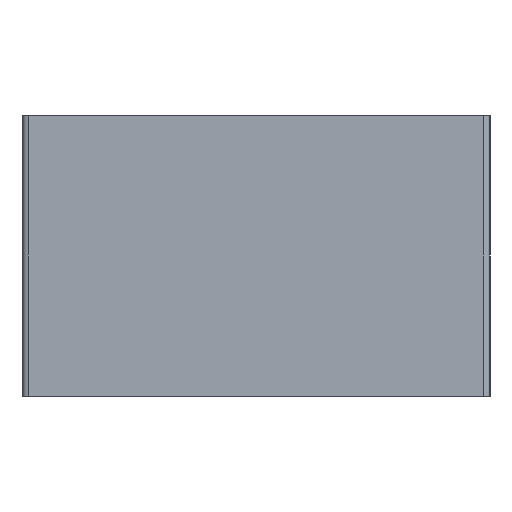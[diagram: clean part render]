
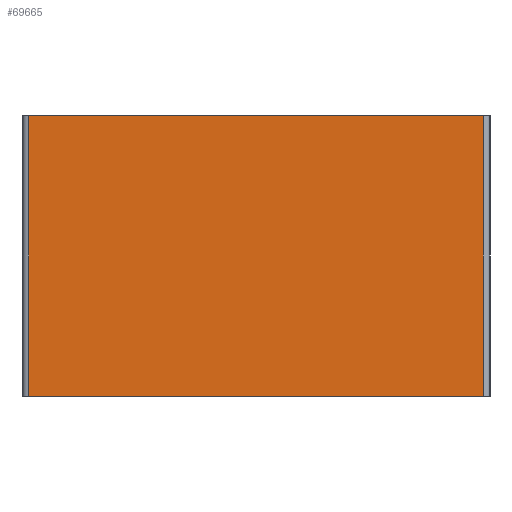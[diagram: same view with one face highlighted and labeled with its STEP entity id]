
A CAD part, left-side view. The second image highlights one B-rep face of the part: STEP entity #69665.
In plain terms, the highlighted planar face has unit normal (-1, 0, 0).
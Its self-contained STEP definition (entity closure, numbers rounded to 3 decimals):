
#1453 = EDGE_CURVE ( 'NONE', #40496, #74767, #7513, .T. ) ;
#1509 = CARTESIAN_POINT ( 'NONE',  ( -95.25, -51., -31.5 ) ) ;
#2593 = VECTOR ( 'NONE', #43764, 1000. ) ;
#7513 = LINE ( 'NONE', #1509, #75387 ) ;
#7665 = VECTOR ( 'NONE', #76607, 1000. ) ;
#8448 = CARTESIAN_POINT ( 'NONE',  ( -95.25, 51., 31.5 ) ) ;
#9707 = CARTESIAN_POINT ( 'NONE',  ( -95.25, -51., 31.5 ) ) ;
#11184 = ORIENTED_EDGE ( 'NONE', *, *, #1453, .F. ) ;
#12238 = VERTEX_POINT ( 'NONE', #15728 ) ;
#13117 = ORIENTED_EDGE ( 'NONE', *, *, #24827, .F. ) ;
#15728 = CARTESIAN_POINT ( 'NONE',  ( -95.25, 51., -31.5 ) ) ;
#20830 = ORIENTED_EDGE ( 'NONE', *, *, #70370, .T. ) ;
#21353 = DIRECTION ( 'NONE',  ( 0., 0., -1. ) ) ;
#21615 = ORIENTED_EDGE ( 'NONE', *, *, #37674, .F. ) ;
#23302 = DIRECTION ( 'NONE',  ( -1., 0., 0. ) ) ;
#24827 = EDGE_CURVE ( 'NONE', #71964, #40496, #40175, .T. ) ;
#25080 = CARTESIAN_POINT ( 'NONE',  ( -95.25, 0., 31.5 ) ) ;
#29652 = LINE ( 'NONE', #37697, #66016 ) ;
#31994 = CARTESIAN_POINT ( 'NONE',  ( -95.25, 52.5, -31.5 ) ) ;
#32144 = FACE_OUTER_BOUND ( 'NONE', #45048, .T. ) ;
#37674 = EDGE_CURVE ( 'NONE', #12238, #71964, #29652, .T. ) ;
#37697 = CARTESIAN_POINT ( 'NONE',  ( -95.25, 51., -31.5 ) ) ;
#40175 = LINE ( 'NONE', #25080, #2593 ) ;
#40496 = VERTEX_POINT ( 'NONE', #9707 ) ;
#43764 = DIRECTION ( 'NONE',  ( 0., -1., 0. ) ) ;
#45048 = EDGE_LOOP ( 'NONE', ( #13117, #21615, #20830, #11184 ) ) ;
#53235 = LINE ( 'NONE', #31994, #7665 ) ;
#53671 = CARTESIAN_POINT ( 'NONE',  ( -95.25, -51., -31.5 ) ) ;
#61997 = PLANE ( 'NONE',  #62349 ) ;
#62349 = AXIS2_PLACEMENT_3D ( 'NONE', #74179, #23302, #68793 ) ;
#63666 = DIRECTION ( 'NONE',  ( 0., 0., 1. ) ) ;
#66016 = VECTOR ( 'NONE', #63666, 1000. ) ;
#68793 = DIRECTION ( 'NONE',  ( 0., 0., 1. ) ) ;
#69665 = ADVANCED_FACE ( 'NONE', ( #32144 ), #61997, .T. ) ;
#70370 = EDGE_CURVE ( 'NONE', #12238, #74767, #53235, .T. ) ;
#71964 = VERTEX_POINT ( 'NONE', #8448 ) ;
#74179 = CARTESIAN_POINT ( 'NONE',  ( -95.25, 52.5, -31.5 ) ) ;
#74767 = VERTEX_POINT ( 'NONE', #53671 ) ;
#75387 = VECTOR ( 'NONE', #21353, 1000. ) ;
#76607 = DIRECTION ( 'NONE',  ( 0., -1., 0. ) ) ;
